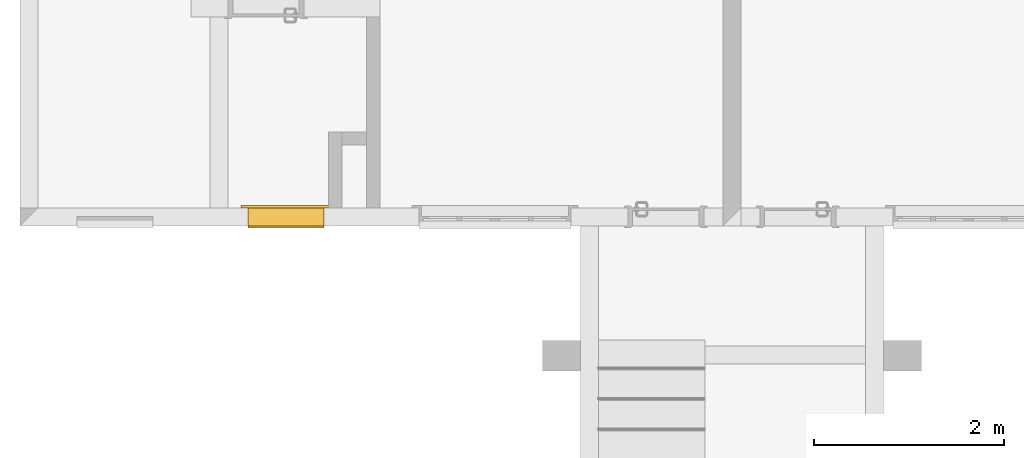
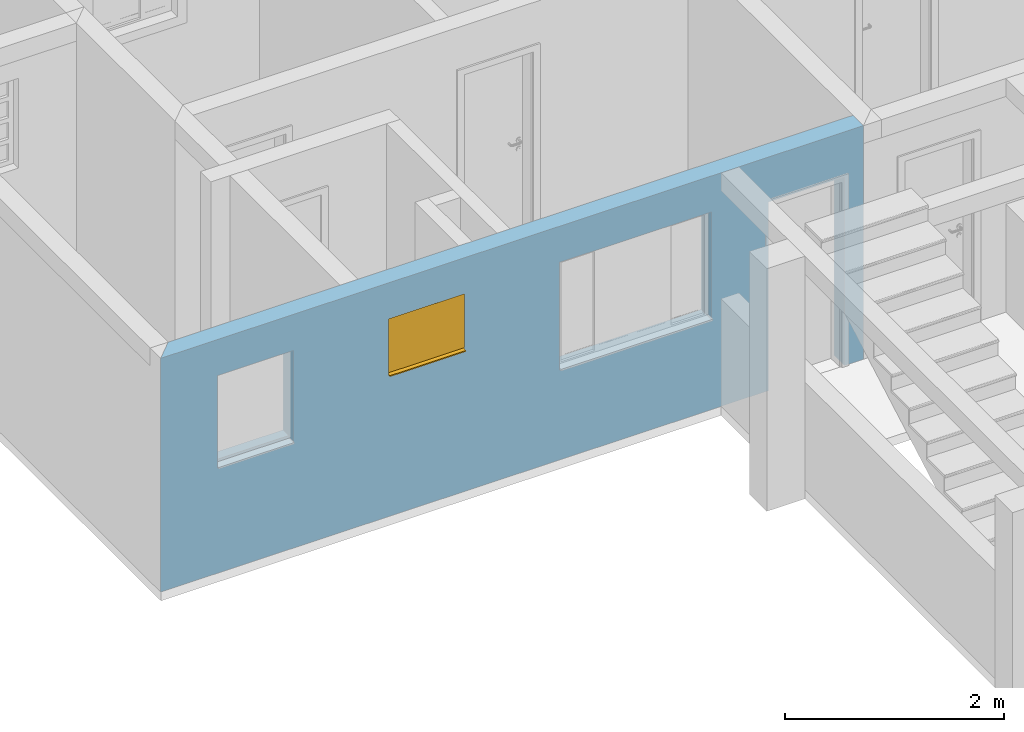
# One storey, part 27 of 47: 1 window, 4 openings, plus 1 element that does not belong to this part.
"""IFC2X3 building model written with IfcOpenShell, lengths in millimetres."""

import ifcopenshell
import ifcopenshell.guid

model = None  # the IFC model being written
_history = None  # IfcOwnerHistory: only IFC2X3 demands one
_inside = {}  # id of a spatial element -> (the spatial element, [elements in it])
_under = {}  # id of a project, library or spatial element -> (it, [spatial elements below it])
_declared = {}  # id of a project -> (the project, [libraries it declares])
_typed = {}  # id of a type object -> (the type object, [elements of that type])
_made_of = {}  # id of a material, layer set ... -> (it, [elements and type objects made of it])


def new_model(schema):
    """Start an empty IFC model of exactly this schema.

    Asked for "IFC4X3", IfcOpenShell would pick the latest addendum, in which some entities
    have other attributes; the version numbers below select the first issue.
    IFC2X3 requires an IfcOwnerHistory on every rooted entity: one is made here for all.
    """
    global model, _history
    if schema == "IFC4X3":
        model = ifcopenshell.file(schema_version=(4, 3, 0, 0))
    else:
        model = ifcopenshell.file(schema=schema)
    _inside.clear()
    _under.clear()
    _declared.clear()
    _typed.clear()
    _made_of.clear()
    _history = None
    if model.schema == "IFC2X3":
        org = make("IfcOrganization", Name="unknown")
        user = make(
            "IfcPersonAndOrganization",
            ThePerson=make("IfcPerson", FamilyName="unknown"),
            TheOrganization=org,
        )
        app = make(
            "IfcApplication",
            ApplicationDeveloper=org,
            Version="unknown",
            ApplicationFullName="unknown",
            ApplicationIdentifier="unknown",
        )
        _history = make(
            "IfcOwnerHistory",
            OwningUser=user,
            OwningApplication=app,
            ChangeAction="ADDED",
            CreationDate=0,
        )
    return model


def make(cls, **values):
    """One entity of the class cls with the attributes given. An attribute that is None is left unset."""
    return model.create_entity(
        cls, **{name: value for name, value in values.items() if value is not None}
    )


def entity(cls, *values):
    """Any entity or typed value of the class cls, its attributes in the order of the schema. None: left unset."""
    e = model.create_entity(cls)
    for i, value in enumerate(values):
        if value is not None:
            e[i] = value
    return e


def rooted(cls, **values):
    """An entity with a GlobalId (a new one), such as an element, a storey or a relation."""
    return make(cls, GlobalId=ifcopenshell.guid.new(), OwnerHistory=_history, **values)


def si_unit(unit_type, name, prefix=None):
    """IfcSIUnit, for example si_unit("LENGTHUNIT", "METRE", prefix="MILLI")."""
    return make("IfcSIUnit", UnitType=unit_type, Prefix=prefix, Name=name)


def converted_unit(unit_type, name, factor, base, dimensions=None, offset=None):
    """IfcConversionBasedUnit, such as the inch: factor (a typed value) times the base unit."""
    return make(
        "IfcConversionBasedUnit"
        if offset is None
        else "IfcConversionBasedUnitWithOffset",
        ConversionOffset=offset,
        Dimensions=None
        if dimensions is None
        else entity("IfcDimensionalExponents", *dimensions),
        UnitType=unit_type,
        Name=name,
        ConversionFactor=make(
            "IfcMeasureWithUnit", ValueComponent=factor, UnitComponent=base
        ),
    )


def derived_unit(unit_type, elements):
    """IfcDerivedUnit: a product of units, each with its exponent."""
    return make(
        "IfcDerivedUnit",
        Elements=[
            make("IfcDerivedUnitElement", Unit=unit, Exponent=power)
            for unit, power in elements
        ],
        UnitType=unit_type,
    )


def money_unit(currency):
    """IfcMonetaryUnit."""
    return make("IfcMonetaryUnit", Currency=currency)


def assignment(units):
    """IfcUnitAssignment: the units of a project."""
    return None if units is None else make("IfcUnitAssignment", Units=units)


def point(xyz):
    """IfcCartesianPoint."""
    return None if xyz is None else make("IfcCartesianPoint", Coordinates=xyz)


def direction(xyz):
    """IfcDirection."""
    return None if xyz is None else make("IfcDirection", DirectionRatios=xyz)


def frame(location, z_axis=None, x_axis=None):
    """IfcAxis2Placement3D, a coordinate frame: its origin and axes. An axis left out is left unset."""
    return make(
        "IfcAxis2Placement3D",
        Location=point(location),
        Axis=direction(z_axis),
        RefDirection=direction(x_axis),
    )


def frame_2d(location, x_axis=None):
    """IfcAxis2Placement2D, a coordinate frame in the plane: its origin and x axis."""
    return make(
        "IfcAxis2Placement2D", Location=point(location), RefDirection=direction(x_axis)
    )


def origin_with_axes():
    """The frame at (0, 0, 0) with the z axis (0, 0, 1) and the x axis (1, 0, 0) written out."""
    return frame((0.0, 0.0, 0.0), z_axis=(0.0, 0.0, 1.0), x_axis=(1.0, 0.0, 0.0))


def origin_2d_with_axis():
    """The frame at (0, 0) in the plane with the x axis (1, 0) written out."""
    return frame_2d((0.0, 0.0), x_axis=(1.0, 0.0))


def place(relative_to, where):
    """IfcLocalPlacement: puts the frame where relative to a parent placement (None: the world)."""
    return make(
        "IfcLocalPlacement", PlacementRelTo=relative_to, RelativePlacement=where
    )


def context(
    kind, dimensions, precision=None, world=None, true_north=None, identifier=None
):
    """IfcGeometricRepresentationContext, for example the 3D "Model" context."""
    return make(
        "IfcGeometricRepresentationContext",
        ContextIdentifier=identifier,
        ContextType=kind,
        CoordinateSpaceDimension=dimensions,
        Precision=precision,
        WorldCoordinateSystem=world,
        TrueNorth=true_north,
    )


def subcontext(parent, identifier, kind, view, scale=None):
    """IfcGeometricRepresentationSubContext, for example "Body" below "Model"."""
    return make(
        "IfcGeometricRepresentationSubContext",
        ContextIdentifier=identifier,
        ContextType=kind,
        ParentContext=parent,
        TargetScale=scale,
        TargetView=view,
    )


def project(units=None, contexts=None):
    """IfcProject with its units and contexts."""
    return rooted(
        "IfcProject",
        Name="project",
        RepresentationContexts=contexts,
        UnitsInContext=assignment(units),
    )


def spatial(cls, under=None, at=None, **own):
    """A site, building, storey or space (cls), placed at a placement, below another one or the project."""
    s = rooted(cls, ObjectPlacement=at, **own)
    if under is not None:
        _under.setdefault(under.id(), (under, []))[1].append(s)
    return s


def polyline(points):
    """IfcPolyline through the points."""
    return make("IfcPolyline", Points=[point(p) for p in points])


def profile(cls, at=None, kind="AREA", **sizes):
    """A parametric profile (cls). Its sizes go by their IFC names, for example OverallWidth=200.0."""
    return make(cls, ProfileType=kind, Position=at, **sizes)


def rectangle(**sizes):
    """IfcRectangleProfileDef."""
    return profile("IfcRectangleProfileDef", **sizes)


def outline(outer, holes=None, kind="AREA"):
    """IfcArbitraryClosedProfileDef: a profile drawn as a closed curve; with holes, ...WithVoids."""
    if holes is None:
        return make("IfcArbitraryClosedProfileDef", ProfileType=kind, OuterCurve=outer)
    return make(
        "IfcArbitraryProfileDefWithVoids",
        ProfileType=kind,
        OuterCurve=outer,
        InnerCurves=holes,
    )


def extrude(swept, where, along, depth):
    """IfcExtrudedAreaSolid: the profile swept, set in the frame where, extruded along a direction by depth."""
    return make(
        "IfcExtrudedAreaSolid",
        SweptArea=swept,
        Position=where,
        ExtrudedDirection=direction(along),
        Depth=depth,
    )


def faces_of(points, faces, orient=None, outer=None):
    """IfcFace entities. A face is a list of loops; a loop is a list of indices into points, from 0.

    orient and outer hold one flag for each loop. By default every Orientation is true, the
    first loop of a face is its IfcFaceOuterBound and the others are IfcFaceBound.
    """
    made = []
    for i, loops in enumerate(faces):
        bounds = []
        for j, loop in enumerate(loops):
            is_outer = j == 0 if outer is None else outer[i][j]
            bounds.append(
                make(
                    "IfcFaceOuterBound" if is_outer else "IfcFaceBound",
                    Bound=make("IfcPolyLoop", Polygon=[points[k] for k in loop]),
                    Orientation=True if orient is None else orient[i][j],
                )
            )
        made.append(make("IfcFace", Bounds=bounds))
    return made


def open_shell(faces, orient=None, outer=None):
    """The faces of one IfcOpenShell. surface_model builds it on its shared points."""
    return ("IfcOpenShell", faces, orient, outer)


def faceted_brep(points, faces, orient=None, outer=None, voids=None):
    """IfcFacetedBrep: a solid bounded by flat faces; with voids (closed shells), ...WithVoids."""
    shared = [point(p) for p in points]
    hull = make("IfcClosedShell", CfsFaces=faces_of(shared, faces, orient, outer))
    if voids is None:
        return make("IfcFacetedBrep", Outer=hull)
    return make(
        "IfcFacetedBrepWithVoids",
        Outer=hull,
        Voids=[
            make(cls, CfsFaces=faces_of(shared, fs, o, b)) for cls, fs, o, b in voids
        ],
    )


def surface_model(cls, points, shells):
    """IfcFaceBasedSurfaceModel or IfcShellBasedSurfaceModel (cls): surfaces that need not close."""
    shared = [point(p) for p in points]
    made = [make(c, CfsFaces=faces_of(shared, fs, o, b)) for c, fs, o, b in shells]
    if cls == "IfcFaceBasedSurfaceModel":
        return make(cls, FbsmFaces=made)
    return make(cls, SbsmBoundary=made)


def shape(context_of_items, identifier, shape_type, items):
    """IfcShapeRepresentation: the items that make up one representation, for example the "Body"."""
    return make(
        "IfcShapeRepresentation",
        ContextOfItems=context_of_items,
        RepresentationIdentifier=identifier,
        RepresentationType=shape_type,
        Items=items,
    )


def source(mapping_origin, context_of_items, identifier, shape_type, items):
    """IfcRepresentationMap: a shape defined once, which mapped items show again and again."""
    return make(
        "IfcRepresentationMap",
        MappingOrigin=mapping_origin,
        MappedRepresentation=shape(context_of_items, identifier, shape_type, items),
    )


def transform(
    local_origin,
    x_axis=None,
    y_axis=None,
    z_axis=None,
    scale=None,
    scale2=None,
    scale3=None,
    uniform=True,
):
    """IfcCartesianTransformationOperator3D, or its non-uniform kind. x_axis, y_axis, z_axis: its Axis1, 2, 3."""
    if uniform:
        return make(
            "IfcCartesianTransformationOperator3D",
            Axis1=direction(x_axis),
            Axis2=direction(y_axis),
            LocalOrigin=point(local_origin),
            Scale=scale,
            Axis3=direction(z_axis),
        )
    return make(
        "IfcCartesianTransformationOperator3DnonUniform",
        Axis1=direction(x_axis),
        Axis2=direction(y_axis),
        LocalOrigin=point(local_origin),
        Scale=scale,
        Axis3=direction(z_axis),
        Scale2=scale2,
        Scale3=scale3,
    )


def mapped(mapping_source, mapping_target):
    """IfcMappedItem: shows the shape of a source again, moved by a transform."""
    return make(
        "IfcMappedItem", MappingSource=mapping_source, MappingTarget=mapping_target
    )


def material(Name=None, Category=None):
    """IfcMaterial."""
    return make("IfcMaterial", Name=Name, Category=Category)


def layer(
    of_material, thickness, ventilated=None, Name=None, Category=None, Priority=None
):
    """IfcMaterialLayer: one layer of a wall or slab, of a material (None: an air gap)."""
    return make(
        "IfcMaterialLayer",
        Material=of_material,
        LayerThickness=thickness,
        IsVentilated=ventilated,
        Name=Name,
        Category=Category,
        Priority=Priority,
    )


def layer_set(layers, Name=None):
    """IfcMaterialLayerSet."""
    return make("IfcMaterialLayerSet", MaterialLayers=layers, LayerSetName=Name)


def layer_usage(for_layer_set, set_direction, sense, offset, extent=None):
    """IfcMaterialLayerSetUsage: how a layer set lies in its element."""
    return make(
        "IfcMaterialLayerSetUsage",
        ForLayerSet=for_layer_set,
        LayerSetDirection=set_direction,
        DirectionSense=sense,
        OffsetFromReferenceLine=offset,
        ReferenceExtent=extent,
    )


def made_of(thing, what):
    """Note that an element or type object is made of a material, layer set ...; save() writes the relation."""
    if what is not None:
        _made_of.setdefault(what.id(), (what, []))[1].append(thing)
    return thing


def type_object(cls, material=None, **own):
    """A type object (cls), such as IfcWallType, which elements share."""
    return made_of(rooted(cls, **own), material)


def element(
    cls,
    number,
    at=None,
    inside=None,
    cuts=None,
    type_object=None,
    material=None,
    context=None,
    identifier="Body",
    shape_type=None,
    held_by="IfcProductDefinitionShape",
    body=None,
    shapes=None,
    **own,
):
    """One element of the class cls, such as IfcWall. Its Tag is "e" and its number.

    at: its placement. inside: the storey or other place that contains it. cuts: it is an
    opening in that element (IfcRelVoidsElement). A single representation is given by context,
    identifier, shape_type and body (its items); several are given by shapes. held_by: the class
    of the entity that holds the representations. save() writes the other relations.
    """
    e = rooted(cls, Tag="e%d" % number, ObjectPlacement=at, **own)
    if body is not None:
        shapes = [shape(context, identifier, shape_type, body)]
    if shapes is not None:
        e.Representation = make(held_by, Representations=shapes)
    if inside is not None:
        _inside.setdefault(inside.id(), (inside, []))[1].append(e)
    if cuts is not None:
        rooted(
            "IfcRelVoidsElement", RelatingBuildingElement=cuts, RelatedOpeningElement=e
        )
    if type_object is not None:
        _typed.setdefault(type_object.id(), (type_object, []))[1].append(e)
    return made_of(e, material)


def fill(opening, filler):
    """IfcRelFillsElement: the door or window that sits in an opening."""
    return rooted(
        "IfcRelFillsElement",
        RelatingOpeningElement=opening,
        RelatedBuildingElement=filler,
    )


def aggregate(whole, parts):
    """IfcRelAggregates: a whole, such as a stair, and the parts it consists of."""
    return rooted("IfcRelAggregates", RelatingObject=whole, RelatedObjects=parts)


def save(model, path):
    """Write the relations noted so far, then the file.

    IfcRelAggregates (storeys below a building ...), IfcRelContainedInSpatialStructure (elements
    in a storey), IfcRelDefinesByType, IfcRelAssociatesMaterial and IfcRelDeclares: one each for
    every whole, place, type object, material and project.
    """
    for whole, parts in _under.values():
        aggregate(whole, parts)
    for where, things in _inside.values():
        rooted(
            "IfcRelContainedInSpatialStructure",
            RelatedElements=things,
            RelatingStructure=where,
        )
    for kind, things in _typed.values():
        rooted("IfcRelDefinesByType", RelatedObjects=things, RelatingType=kind)
    for what, things in _made_of.values():
        rooted("IfcRelAssociatesMaterial", RelatedObjects=things, RelatingMaterial=what)
    for by, libraries in _declared.values():
        rooted("IfcRelDeclares", RelatingContext=by, RelatedDefinitions=libraries)
    model.write(path)


model = new_model("IFC2X3")

# Units and contexts
model_context = context("Model", 3, precision=0.01, world=origin_with_axes(), true_north=direction((0.0, 1.0)))
body_context = subcontext(model_context, "Body", "Model", "MODEL_VIEW")
ifc_project = project(units=[si_unit("LENGTHUNIT", "METRE", prefix="MILLI"), si_unit("AREAUNIT", "SQUARE_METRE"), si_unit("VOLUMEUNIT", "CUBIC_METRE"), converted_unit("PLANEANGLEUNIT", "DEGREE", entity("IfcPlaneAngleMeasure", 0.0174532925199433), si_unit("PLANEANGLEUNIT", "RADIAN"), dimensions=[0, 0, 0, 0, 0, 0, 0]), money_unit("USD"), converted_unit("TIMEUNIT", "Year", entity("IfcTimeMeasure", 31557600.0), si_unit("TIMEUNIT", "SECOND"), dimensions=[0, 0, 1, 0, 0, 0, 0]), si_unit("MASSUNIT", "GRAM", prefix="KILO"), si_unit("THERMODYNAMICTEMPERATUREUNIT", "DEGREE_CELSIUS"), si_unit("LUMINOUSINTENSITYUNIT", "LUMEN"), si_unit("ENERGYUNIT", "JOULE", prefix="MEGA"), derived_unit("THERMALCONDUCTANCEUNIT", [(si_unit("POWERUNIT", "WATT"), 1), (si_unit("LENGTHUNIT", "METRE"), -1), (si_unit("THERMODYNAMICTEMPERATUREUNIT", "KELVIN"), -1)]), derived_unit("SPECIFICHEATCAPACITYUNIT", [(si_unit("ENERGYUNIT", "JOULE"), 1), (si_unit("MASSUNIT", "GRAM", prefix="KILO"), -1), (si_unit("THERMODYNAMICTEMPERATUREUNIT", "KELVIN"), -1)]), derived_unit("MASSDENSITYUNIT", [(si_unit("MASSUNIT", "GRAM", prefix="KILO"), 1), (si_unit("VOLUMEUNIT", "CUBIC_METRE"), -1)])], contexts=[model_context])

# Site, building, storey
site_placement = place(None, origin_with_axes())
site = spatial("IfcSite", under=ifc_project, at=site_placement, Name="Local", CompositionType="ELEMENT")
building_placement = place(site_placement, origin_with_axes())
building = spatial("IfcBuilding", under=site, at=building_placement, Name="Construção", CompositionType="ELEMENT")
storey_placement = place(building_placement, origin_with_axes())
storey = spatial("IfcBuildingStorey", under=building, at=storey_placement, Name="Pavimento Tipo", CompositionType="ELEMENT", Elevation=0.0)

# Wall, openings, window
ifc_material = material(Name="Concreto - Estrutural")
ifc_layer = layer(ifc_material, 190.0, ventilated="UNKNOWN")
ifc_layer_set = layer_set([ifc_layer], Name="Concreto - Estrutural 190")
ifc_layer_usage = layer_usage(ifc_layer_set, "AXIS2", "POSITIVE", -190.0)
wall_type = type_object("IfcWallType", Name="Concreto - Estrutural 190", PredefinedType="NOTDEFINED")
wall_placement = place(storey_placement, frame((852.5669975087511, 12396.98141771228, 0.0), z_axis=(0.0, 0.0, 1.0), x_axis=(-1.0, 0.0, 0.0)))
wall = element("IfcWallStandardCase", 1, at=wall_placement, inside=storey, type_object=wall_type, material=ifc_layer_usage, Name="Apartamento 2 - Parede-003", context=body_context, shape_type="SweptSolid", body=[
    extrude(outline(polyline([(0.0, -189.9999999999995), (7209.999999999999, -189.9999999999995), (7399.999999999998, 0.0), (0.0, 0.0), (0.0, -189.9999999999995)])), origin_with_axes(), (0.0, 0.0, 1.0), 2600.0),
])
opening_1_placement = place(wall_placement, frame((2400.0, 0.0, 1000.0), z_axis=(0.0, 0.0, 1.0), x_axis=(1.0, 0.0, 0.0)))
element("IfcOpeningElement", 2, at=opening_1_placement, cuts=wall, Name="Apartamento 2 - J01", context=body_context, shape_type="SweptSolid", body=[
    extrude(rectangle(XDim=1600.0, YDim=1200.0, at=origin_2d_with_axis()), frame((0.0, -49.99999999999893, 600.0000000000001), z_axis=(0.0, 1.0, 0.0), x_axis=(1.0, 0.0, 0.0)), (0.0, 0.0, -1.0), 330.0),
    extrude(rectangle(XDim=1600.0, YDim=1200.0, at=origin_2d_with_axis()), frame((0.0, -49.99999999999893, 600.0000000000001), z_axis=(0.0, -1.0, 0.0), x_axis=(1.0, 0.0, 0.0)), (0.0, 0.0, -1.0), 240.0),
    extrude(rectangle(XDim=1750.0, YDim=1350.0, at=origin_2d_with_axis()), frame((0.0, -189.9999999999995, 599.9999999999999), z_axis=(0.0, 1.0, 0.0), x_axis=(1.0, 0.0, 0.0)), (0.0, 0.0, -1.0), 240.0),
])
opening_2_placement = place(wall_placement, frame((4600.0, 0.0, 1600.0), z_axis=(0.0, 0.0, 1.0), x_axis=(1.0, 0.0, 0.0)))
opening_2 = element("IfcOpeningElement", 3, at=opening_2_placement, cuts=wall, Name="Apartamento 2 - J02", context=body_context, shape_type="SweptSolid", body=[
    extrude(rectangle(XDim=800.0000000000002, YDim=599.9999999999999, at=origin_2d_with_axis()), frame((0.0, -189.9999999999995, 299.9999999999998), z_axis=(0.0, -1.0, 0.0), x_axis=(-1.0, 0.0, 0.0)), (0.0, 0.0, -1.0), 570.0000000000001),
    extrude(rectangle(XDim=800.0000000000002, YDim=30.00000000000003, at=origin_2d_with_axis()), frame((0.0, -35.00000000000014, -14.9999999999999), z_axis=(0.0, 1.0, 0.0), x_axis=(-1.0, 0.0, 0.0)), (0.0, 0.0, 1.0), 225.0),
    extrude(rectangle(XDim=950.0000000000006, YDim=750.0, at=origin_2d_with_axis()), frame((0.0, -189.9999999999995, 300.0000000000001), z_axis=(0.0, -1.0, 0.0), x_axis=(-1.0, 0.0, 0.0)), (0.0, 0.0, 1.0), 190.0),
])
opening_3_placement = place(wall_placement, frame((6399.999999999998, 0.0, 1200.0), z_axis=(0.0, 0.0, 1.0), x_axis=(1.0, 0.0, 0.0)))
element("IfcOpeningElement", 4, at=opening_3_placement, cuts=wall, Name="Apartamento 2 - J03", context=body_context, shape_type="SweptSolid", body=[
    extrude(rectangle(XDim=800.0000000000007, YDim=999.9999999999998, at=origin_2d_with_axis()), frame((0.0, -49.99999999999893, 500.0), z_axis=(0.0, -1.0, 0.0), x_axis=(-1.0, 0.0, 0.0)), (0.0, 0.0, 1.0), 330.0),
    extrude(rectangle(XDim=800.0000000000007, YDim=999.9999999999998, at=origin_2d_with_axis()), frame((0.0, -49.99999999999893, 500.0), z_axis=(0.0, 1.0, 0.0), x_axis=(-1.0, 0.0, 0.0)), (0.0, 0.0, 1.0), 240.0),
    extrude(rectangle(XDim=800.0000000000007, YDim=30.00000000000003, at=origin_2d_with_axis()), frame((0.0, -84.99999999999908, -14.9999999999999), z_axis=(0.0, 1.0, 0.0), x_axis=(-1.0, 0.0, 0.0)), (0.0, 0.0, 1.0), 225.0),
])
opening_4_placement = place(wall_placement, frame((600.0000000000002, 0.0, 0.0), z_axis=(0.0, 0.0, 1.0), x_axis=(1.0, 0.0, 0.0)))
element("IfcOpeningElement", 5, at=opening_4_placement, cuts=wall, Name="Apartamento 2 - P01", context=body_context, shape_type="SweptSolid", body=[
    extrude(rectangle(XDim=800.0, YDim=2100.0, at=origin_2d_with_axis()), frame((0.0, -189.9999999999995, 1050.0), z_axis=(0.0, 1.0, 0.0), x_axis=(-1.0, 0.0, 0.0)), (0.0, 0.0, 1.0), 570.0000000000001),
    extrude(rectangle(XDim=870.0000000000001, YDim=2135.0, at=origin_2d_with_axis()), frame((0.0, -189.9999999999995, 1067.5), z_axis=(0.0, 1.0, 0.0), x_axis=(-1.0, 0.0, 0.0)), (0.0, 0.0, -1.0), 190.0),
    extrude(rectangle(XDim=870.0000000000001, YDim=2135.0, at=origin_2d_with_axis()), frame((0.0, 0.0, 1067.5), z_axis=(0.0, -1.0, 0.0), x_axis=(-1.0, 0.0, 0.0)), (0.0, 0.0, -1.0), 190.0),
])
window_style = type_object("IfcWindowStyle", Name="Janela 27", ConstructionType="NOTDEFINED", OperationType="SINGLE_PANEL", ParameterTakesPrecedence=False, Sizeable=False)
shared_shape = source(origin_with_axes(), body_context, "Body", "SurfaceModel", [
    faceted_brep([(400.0, -34.99999999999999, 0.0), (400.0, -24.99999999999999, 0.0), (-400.0, -24.99999999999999, 0.0), (-400.0, -34.99999999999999, 0.0), (400.0, -34.99999999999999, -30.0), (400.0, 25.0, -30.0), (400.0, 25.0, -17.02704173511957), (400.0, -24.99999999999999, -10.0), (-400.0, -24.99999999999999, -9.999999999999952), (-400.0, 25.0, -17.02704173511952), (-400.0, 25.0, -29.99999999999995), (-400.0, -34.99999999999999, -29.99999999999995)], [[[0, 1, 2, 3]], [[0, 4, 5, 6, 7, 1]], [[1, 7, 8, 2]], [[3, 2, 8, 9, 10, 11]], [[4, 0, 3, 11]], [[5, 4, 11, 10]], [[6, 5, 10, 9]], [[7, 6, 9, 8]]]),
    faceted_brep([(400.0, -49.99999999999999, 0.0), (400.0, -190.0, 0.0), (-400.0, -190.0, 0.0), (-400.0, -49.99999999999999, 0.0), (400.0, -50.00000000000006, 600.0), (400.0, -190.0000000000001, 600.0), (-400.0, -190.0000000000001, 600.0), (375.0, -190.0, 24.99999999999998), (-375.0, -190.0, 24.99999999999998), (-375.0, -190.0000000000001, 575.0), (375.0, -190.0000000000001, 575.0), (-400.0, -50.00000000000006, 600.0), (375.0, -49.99999999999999, 24.99999999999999), (375.0, -50.00000000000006, 575.0), (-375.0, -50.00000000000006, 575.0), (-375.0, -49.99999999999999, 24.99999999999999)], [[[0, 1, 2, 3]], [[4, 5, 1, 0]], [[1, 5, 6, 2], [7, 8, 9, 10]], [[3, 2, 6, 11]], [[0, 3, 11, 4], [12, 13, 14, 15]], [[11, 6, 5, 4]], [[15, 8, 7, 12]], [[14, 9, 8, 15]], [[13, 10, 9, 14]], [[12, 7, 10, 13]]]),
    faceted_brep([(475.0, -215.0, -75.00000000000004), (375.0, -215.0, 24.99999999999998), (375.0, -190.0, 24.99999999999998), (475.0, -190.0, -75.00000000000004), (475.0, -215.0000000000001, 675.0), (375.0, -215.0000000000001, 575.0), (375.0, -190.0000000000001, 575.0), (475.0, -190.0000000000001, 675.0)], [[[0, 1, 2, 3]], [[0, 4, 5, 1]], [[1, 5, 6, 2]], [[3, 2, 6, 7]], [[4, 0, 3, 7]], [[5, 4, 7, 6]]]),
    faceted_brep([(-475.0, -215.0000000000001, 675.0), (-375.0, -215.0000000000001, 575.0), (-375.0, -190.0000000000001, 575.0), (-475.0, -190.0000000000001, 675.0), (-475.0, -215.0, -75.00000000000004), (-375.0, -215.0, 24.99999999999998), (-375.0, -190.0, 24.99999999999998), (-475.0, -190.0, -75.00000000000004)], [[[0, 1, 2, 3]], [[0, 4, 5, 1]], [[1, 5, 6, 2]], [[3, 2, 6, 7]], [[4, 0, 3, 7]], [[5, 4, 7, 6]]]),
    faceted_brep([(-475.0, -215.0, -75.00000000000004), (-375.0, -215.0, 24.99999999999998), (-375.0, -190.0, 24.99999999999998), (-475.0, -190.0, -75.00000000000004), (475.0, -215.0, -75.00000000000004), (375.0, -215.0, 24.99999999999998), (375.0, -190.0, 24.99999999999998), (475.0, -190.0, -75.00000000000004)], [[[0, 1, 2, 3]], [[0, 4, 5, 1]], [[1, 5, 6, 2]], [[3, 2, 6, 7]], [[4, 0, 3, 7]], [[5, 4, 7, 6]]]),
    faceted_brep([(475.0, -215.0000000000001, 674.9999999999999), (375.0, -215.0000000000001, 575.0), (375.0, -190.0000000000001, 575.0), (475.0, -190.0000000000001, 674.9999999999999), (-475.0, -215.0000000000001, 674.9999999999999), (-375.0, -215.0000000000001, 575.0), (-375.0, -190.0000000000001, 575.0), (-475.0, -190.0000000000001, 674.9999999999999)], [[[0, 1, 2, 3]], [[0, 4, 5, 1]], [[1, 5, 6, 2]], [[3, 2, 6, 7]], [[4, 0, 3, 7]], [[5, 4, 7, 6]]]),
    faceted_brep([(373.0000000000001, 0.0, 552.9999999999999), (373.0000000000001, -20.00000000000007, 552.9999999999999), (353.0000000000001, -20.00000000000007, 552.9999999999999), (353.0000000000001, -50.00000000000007, 552.9999999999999), (400.0, -50.00000000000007, 552.9999999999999), (400.0, 0.0, 552.9999999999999), (373.0000000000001, 0.0, 46.99999999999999), (373.0000000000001, -20.00000000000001, 47.00000000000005), (353.0000000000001, -20.00000000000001, 46.99999999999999), (353.0000000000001, -50.00000000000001, 46.99999999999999), (400.0, -50.00000000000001, 46.99999999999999), (400.0, 0.0, 46.99999999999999)], [[[0, 1, 2, 3, 4, 5]], [[1, 0, 6, 7]], [[8, 2, 1, 7]], [[2, 8, 9, 3]], [[4, 3, 9, 10]], [[5, 4, 10, 11]], [[6, 0, 5, 11]], [[7, 6, 11, 10, 9, 8]]]),
    faceted_brep([(-353.0000000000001, -20.00000000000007, 552.9999999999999), (-373.0000000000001, -20.00000000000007, 552.9999999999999), (-373.0000000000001, 0.0, 552.9999999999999), (-400.0, 0.0, 552.9999999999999), (-400.0, -50.00000000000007, 552.9999999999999), (-353.0000000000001, -50.00000000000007, 552.9999999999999), (-353.0000000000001, -20.00000000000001, 46.99999999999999), (-373.0000000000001, -20.00000000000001, 46.99999999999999), (-373.0000000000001, 0.0, 46.99999999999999), (-400.0, 0.0, 46.99999999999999), (-400.0, -50.00000000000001, 46.99999999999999), (-353.0000000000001, -50.00000000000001, 46.99999999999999)], [[[0, 1, 2, 3, 4, 5]], [[1, 0, 6, 7]], [[8, 2, 1, 7]], [[2, 8, 9, 3]], [[9, 10, 4, 3]], [[10, 11, 5, 4]], [[6, 0, 5, 11]], [[7, 6, 11, 10, 9, 8]]]),
    faceted_brep([(-353.0000000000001, -20.00000000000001, 46.99999999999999), (-373.0000000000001, -20.00000000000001, 46.99999999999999), (-373.0000000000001, 0.0, 46.99999999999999), (-400.0, 0.0, 46.99999999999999), (-400.0, -50.00000000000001, 46.99999999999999), (-353.0000000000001, -50.00000000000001, 46.99999999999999), (353.0000000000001, -20.00000000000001, 46.99999999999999), (373.0000000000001, -20.00000000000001, 47.00000000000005), (373.0000000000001, -20.0, 27.00000000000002), (-373.0000000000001, -20.0, 27.00000000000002), (-373.0000000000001, 0.0, 27.00000000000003), (373.0000000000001, 0.0, 27.00000000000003), (373.0000000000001, 0.0, 46.99999999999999), (400.0, 0.0, 46.99999999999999), (400.0, 0.0, 0.0), (-400.0, 0.0, 0.0), (-400.0, -50.0, 0.0), (400.0, -50.00000000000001, 46.99999999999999), (353.0000000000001, -50.00000000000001, 46.99999999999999), (400.0, -50.0, 0.0)], [[[0, 1, 2, 3, 4, 5]], [[1, 0, 6, 7, 8, 9]], [[10, 2, 1, 9]], [[11, 12, 13, 14, 15, 3, 2, 10]], [[15, 16, 4, 3]], [[17, 18, 5, 4, 16, 19]], [[6, 0, 5, 18]], [[7, 6, 18, 17, 13, 12]], [[7, 12, 11, 8]], [[11, 10, 9, 8]], [[13, 17, 19, 14]], [[14, 19, 16, 15]]]),
    faceted_brep([(373.0000000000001, 0.0, 552.9999999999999), (373.0000000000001, 0.0, 573.0), (-373.0000000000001, 0.0, 573.0), (-373.0000000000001, 0.0, 552.9999999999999), (-400.0, 0.0, 552.9999999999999), (-400.0, 0.0, 600.0), (400.0, 0.0, 600.0), (400.0, 0.0, 552.9999999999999), (373.0000000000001, -20.00000000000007, 552.9999999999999), (373.0000000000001, -20.00000000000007, 573.0), (-373.0000000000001, -20.00000000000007, 573.0), (-373.0000000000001, -20.00000000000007, 552.9999999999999), (-353.0000000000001, -20.00000000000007, 552.9999999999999), (-353.0000000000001, -50.00000000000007, 552.9999999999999), (-400.0, -50.00000000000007, 552.9999999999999), (-400.0, -50.00000000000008, 600.0), (400.0, -50.00000000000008, 600.0), (400.0, -50.00000000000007, 552.9999999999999), (353.0000000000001, -50.00000000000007, 552.9999999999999), (353.0000000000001, -20.00000000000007, 552.9999999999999)], [[[0, 1, 2, 3, 4, 5, 6, 7]], [[1, 0, 8, 9]], [[2, 1, 9, 10]], [[3, 2, 10, 11]], [[11, 12, 13, 14, 4, 3]], [[4, 14, 15, 5]], [[5, 15, 16, 6]], [[6, 16, 17, 7]], [[8, 0, 7, 17, 18, 19]], [[12, 11, 10, 9, 8, 19]], [[12, 19, 18, 13]], [[14, 13, 18, 17, 16, 15]]]),
    faceted_brep([(323.0000000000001, -20.00000000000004, 522.9999999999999), (373.0000000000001, -20.00000000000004, 522.9999999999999), (373.0000000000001, 0.0, 522.9999999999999), (323.0000000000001, 0.0, 522.9999999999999), (323.0000000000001, -19.99999999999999, 77.00000000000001), (373.0000000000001, -19.99999999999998, 77.00000000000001), (373.0000000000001, 0.0, 77.00000000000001), (323.0000000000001, 0.0, 77.00000000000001)], [[[0, 1, 2, 3]], [[0, 4, 5, 1]], [[1, 5, 6, 2]], [[3, 2, 6, 7]], [[4, 0, 3, 7]], [[5, 4, 7, 6]]]),
    faceted_brep([(-323.0000000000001, -20.00000000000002, 77.00000000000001), (-373.0000000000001, -20.00000000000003, 77.00000000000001), (-373.0000000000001, 0.0, 77.00000000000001), (-323.0000000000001, 0.0, 77.00000000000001), (-323.0000000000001, -20.00000000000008, 522.9999999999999), (-373.0000000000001, -20.00000000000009, 522.9999999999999), (-373.0000000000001, 0.0, 522.9999999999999), (-323.0000000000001, 0.0, 522.9999999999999)], [[[0, 1, 2, 3]], [[0, 4, 5, 1]], [[1, 5, 6, 2]], [[3, 2, 6, 7]], [[4, 0, 3, 7]], [[5, 4, 7, 6]]]),
    faceted_brep([(-373.0000000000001, -20.00000000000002, 27.0), (-373.0000000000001, -20.00000000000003, 77.00000000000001), (-373.0000000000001, 0.0, 77.00000000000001), (-373.0000000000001, 0.0, 27.00000000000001), (373.0000000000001, -19.99999999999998, 27.0), (373.0000000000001, -19.99999999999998, 77.00000000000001), (323.0000000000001, -19.99999999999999, 77.00000000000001), (-323.0000000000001, -20.00000000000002, 77.00000000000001), (-323.0000000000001, 0.0, 77.00000000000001), (323.0000000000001, 0.0, 77.00000000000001), (373.0000000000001, 0.0, 77.00000000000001), (373.0000000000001, 0.0, 27.00000000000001)], [[[0, 1, 2, 3]], [[0, 4, 5, 6, 7, 1]], [[1, 7, 8, 2]], [[3, 2, 8, 9, 10, 11]], [[4, 0, 3, 11]], [[5, 4, 11, 10]], [[6, 5, 10, 9]], [[7, 6, 9, 8]]]),
    faceted_brep([(373.0000000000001, -20.00000000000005, 573.0), (373.0000000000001, -20.00000000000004, 522.9999999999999), (373.0000000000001, 0.0, 522.9999999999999), (373.0000000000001, 0.0, 573.0), (-373.0000000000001, -20.00000000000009, 573.0), (-373.0000000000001, -20.00000000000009, 522.9999999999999), (-323.0000000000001, -20.00000000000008, 522.9999999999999), (323.0000000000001, -20.00000000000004, 522.9999999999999), (323.0000000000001, 0.0, 522.9999999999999), (-323.0000000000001, 0.0, 522.9999999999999), (-373.0000000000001, 0.0, 522.9999999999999), (-373.0000000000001, 0.0, 573.0)], [[[0, 1, 2, 3]], [[0, 4, 5, 6, 7, 1]], [[1, 7, 8, 2]], [[3, 2, 8, 9, 10, 11]], [[4, 0, 3, 11]], [[5, 4, 11, 10]], [[6, 5, 10, 9]], [[7, 6, 9, 8]]]),
    surface_model("IfcShellBasedSurfaceModel", [(323.0000000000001, -20.00000000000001, 77.00000000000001), (323.0000000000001, -20.00000000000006, 522.9999999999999), (-323.0000000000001, -20.00000000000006, 522.9999999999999), (-323.0000000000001, -20.00000000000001, 77.00000000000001)], [open_shell([[[0, 1, 2, 3]]])]),
    surface_model("IfcShellBasedSurfaceModel", [(323.0000000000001, 0.0, 77.00000000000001), (-323.0000000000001, 0.0, 77.00000000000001), (-323.0000000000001, 0.0, 522.9999999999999), (323.0000000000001, 0.0, 522.9999999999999)], [open_shell([[[0, 1, 2, 3]]])]),
])
window_placement = place(opening_2_placement, frame((-399.9999999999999, 0.0, 0.0), z_axis=(0.0, 0.0, 1.0), x_axis=(1.0, 0.0, 0.0)))
window = element("IfcWindow", 6, at=window_placement, inside=storey, type_object=window_style, Name="Apartamento 2 - J02", ObjectType="WINDOW", OverallHeight=600.0, OverallWidth=800.0, context=body_context, shape_type="MappedRepresentation", body=[
    mapped(shared_shape, transform((399.9999999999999, 0.0, 0.0))),
])
fill(opening_2, window)

save(model, "model.ifc")
